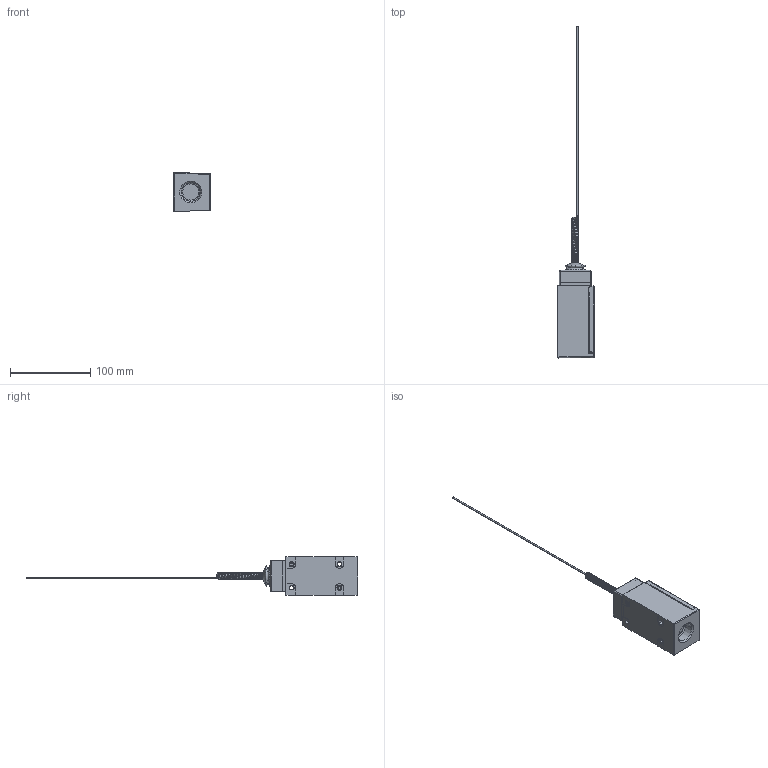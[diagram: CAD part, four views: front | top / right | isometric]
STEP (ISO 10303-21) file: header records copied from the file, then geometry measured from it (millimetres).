
FILE_DESCRIPTION((''),'2;1');
FILE_NAME('LSJ4L-7M','2012-12-06T',('E522935'),(''),'PRO/ENGINEER BY PARAMETRIC TECHNOLOGY CORPORATION, 2009460','PRO/ENGINEER BY PARAMETRIC TECHNOLOGY CORPORATION, 2009460','');
FILE_SCHEMA(('CONFIG_CONTROL_DESIGN'));
Length unit declared in the file: inch
Products named in the file (1): LSJ4L-7M
Bounding box: 45.72 x 412.69 x 47.62 mm (x, y, z)
Volume: 214611.4 mm3; surface area: 33913.4 mm2
Topology: 1 solids, 2 shells, 504 faces, 1263 edges, 765 vertices
Faces by surface type: plane 257, cylinder 157, cone 39, sphere 23, bspline 18, torus 8, revolution 2
Entity records: 25717 total; most frequent: CARTESIAN_POINT 13734, DIRECTION 2509, ORIENTED_EDGE 2504, EDGE_CURVE 1252, AXIS2_PLACEMENT_3D 924, VERTEX_POINT 765, VECTOR 659, LINE 659
